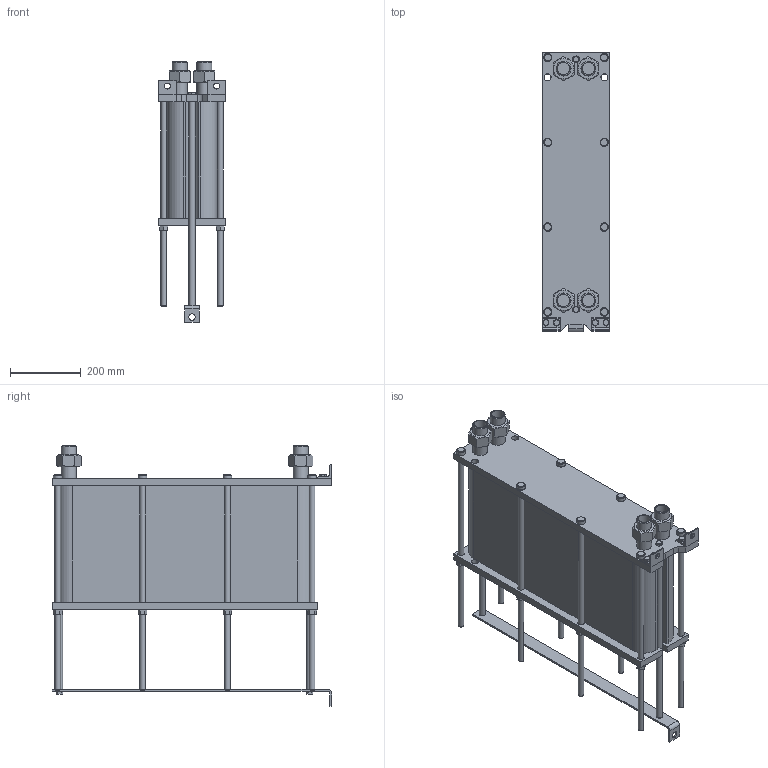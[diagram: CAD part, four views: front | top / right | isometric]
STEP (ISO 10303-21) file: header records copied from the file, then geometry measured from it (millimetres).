
FILE_DESCRIPTION(/* description */ (''),/* implementation_level */ '2;1');
FILE_NAME(/* name */ 'C:\Users\zhuro\Desktop\ENCO\TO\ЭН-008\ЭН-0,5-008-106-1.stp',/* time_stamp */ '2022-06-06T10:55:28+03:00',/* author */ ('zhuro'),/* organization */ (''),/* preprocessor_version */ 'ST-DEVELOPER v18.1',/* originating_system */ 'Autodesk Inventor 2022',/* authorisation */ '');
FILE_SCHEMA (('AUTOMOTIVE_DESIGN { 1 0 10303 214 3 1 1 }'));
Length unit declared in the file: millimetre
Products named in the file (1): ЭН-0,5-008-106-1
Bounding box: 190 x 790 x 737.8 mm (x, y, z)
Volume: 40492433 mm3; surface area: 2072277.8 mm2
Topology: 40 solids, 40 shells, 428 faces, 924 edges, 606 vertices
Faces by surface type: plane 273, cylinder 109, cone 40, torus 6
Full cylindrical faces by diameter (mm): 12 x6, 14 x2, 16 x20, 17 x8, 18 x19, 20 x5, 24 x8, 28 x8, 34.3 x8, 42.3 x8
Entity records: 15843 total; most frequent: CARTESIAN_POINT 5991, DIRECTION 1984, ORIENTED_EDGE 1848, EDGE_CURVE 924, AXIS2_PLACEMENT_3D 715, VERTEX_POINT 606, LINE 554, VECTOR 554
